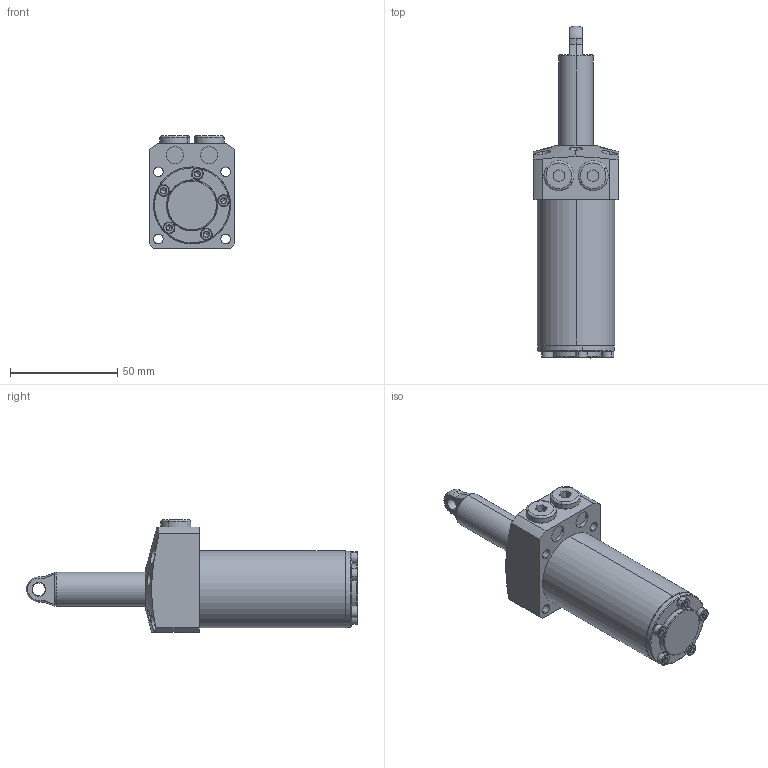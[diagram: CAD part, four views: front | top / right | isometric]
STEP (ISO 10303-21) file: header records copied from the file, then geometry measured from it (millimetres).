
FILE_DESCRIPTION (( 'STEP AP203' ), '1' );
FILE_NAME ('680360-CP-051.step', '2016-11-02T03:16:50', ( 'wxp' ), ( '' ), 'SwSTEP 2.0', 'SolidWorks 2011', '' );
FILE_SCHEMA (( 'CONFIG_CONTROL_DESIGN' ));
Length unit declared in the file: millimetre
Products named in the file (7): 680360-CP-051; 葩璃 68036-51-13^680360-CP-051; 葩璃 68036-15-5^680360-CP-051; 葩璃 68036-51-3^680360-CP-051; 葩璃 68036-15-4^680360-CP-051; 葩璃 68036-15-3^680360-CP-051; 葩璃 68036-51-1^680360-CP-051
Assembly tree (15 placements, depth 2):
  680360-CP-051
    葩璃 68036-15-3^680360-CP-051
    葩璃 68036-15-5^680360-CP-051  x2
    葩璃 68036-51-1^680360-CP-051
    葩璃 68036-51-3^680360-CP-051  x5
    葩璃 68036-15-4^680360-CP-051  x5
    葩璃 68036-51-13^680360-CP-051
Bounding box: 40 x 155 x 52.5 mm (x, y, z)
Volume: 118372.6 mm3; surface area: 30450.4 mm2
Topology: 15 solids, 15 shells, 479 faces, 916 edges, 485 vertices
Faces by surface type: plane 202, cone 144, cylinder 115, torus 16, sphere 2
Entity records: 7087 total; most frequent: CARTESIAN_POINT 1610, DIRECTION 1040, ORIENTED_EDGE 846, AXIS2_PLACEMENT_3D 436, EDGE_CURVE 423, VERTEX_POINT 252, EDGE_LOOP 247, CIRCLE 213
